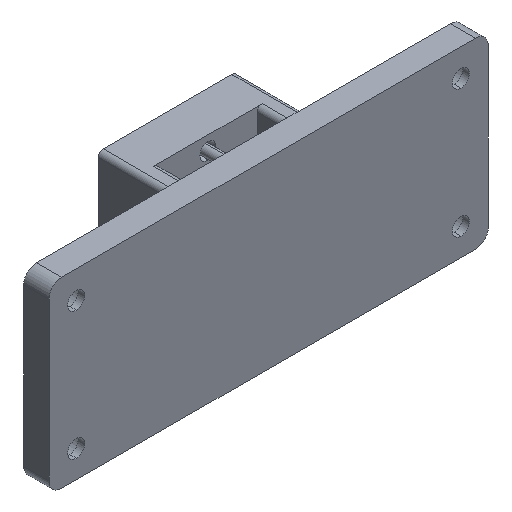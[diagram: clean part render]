
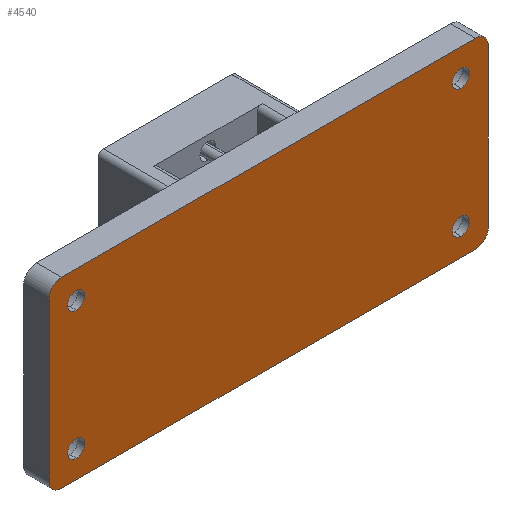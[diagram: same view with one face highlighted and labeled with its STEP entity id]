
A CAD part, isometric view. The second image highlights one B-rep face of the part: STEP entity #4540.
In plain terms, the highlighted planar face has unit normal (0, -1, 0).
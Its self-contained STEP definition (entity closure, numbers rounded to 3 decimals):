
#30 = DIRECTION ( 'NONE',  ( 0., 0., 1. ) ) ;
#47 = LINE ( 'NONE', #7342, #2265 ) ;
#66 = CIRCLE ( 'NONE', #1251, 3.378 ) ;
#81 = ORIENTED_EDGE ( 'NONE', *, *, #951, .T. ) ;
#206 = DIRECTION ( 'NONE',  ( 0., 1., 0. ) ) ;
#210 = ORIENTED_EDGE ( 'NONE', *, *, #5515, .F. ) ;
#387 = AXIS2_PLACEMENT_3D ( 'NONE', #5676, #206, #8116 ) ;
#404 = AXIS2_PLACEMENT_3D ( 'NONE', #4063, #929, #4961 ) ;
#409 = VERTEX_POINT ( 'NONE', #2379 ) ;
#417 = DIRECTION ( 'NONE',  ( 0., 0., 1. ) ) ;
#509 = ORIENTED_EDGE ( 'NONE', *, *, #512, .F. ) ;
#512 = EDGE_CURVE ( 'NONE', #6281, #9403, #47, .T. ) ;
#516 = CARTESIAN_POINT ( 'NONE',  ( 0., 0., 0. ) ) ;
#634 = DIRECTION ( 'NONE',  ( 0., -1., 0. ) ) ;
#698 = CARTESIAN_POINT ( 'NONE',  ( -76.2, 0., -28.778 ) ) ;
#788 = FACE_BOUND ( 'NONE', #6172, .T. ) ;
#808 = DIRECTION ( 'NONE',  ( 0., 0., 1. ) ) ;
#885 = AXIS2_PLACEMENT_3D ( 'NONE', #2590, #9703, #1802 ) ;
#894 = VECTOR ( 'NONE', #3713, 1000. ) ;
#929 = DIRECTION ( 'NONE',  ( 0., 1., 0. ) ) ;
#935 = EDGE_CURVE ( 'NONE', #7901, #6301, #3128, .T. ) ;
#951 = EDGE_CURVE ( 'NONE', #1087, #8222, #5702, .T. ) ;
#1055 = DIRECTION ( 'NONE',  ( 0., 1., 0. ) ) ;
#1087 = VERTEX_POINT ( 'NONE', #8135 ) ;
#1168 = DIRECTION ( 'NONE',  ( 0., -1., 0. ) ) ;
#1181 = VERTEX_POINT ( 'NONE', #5962 ) ;
#1251 = AXIS2_PLACEMENT_3D ( 'NONE', #8128, #4164, #4969 ) ;
#1272 = FACE_BOUND ( 'NONE', #5117, .T. ) ;
#1371 = CIRCLE ( 'NONE', #885, 3.378 ) ;
#1485 = EDGE_LOOP ( 'NONE', ( #1655, #4265, #8552, #1576, #509, #6627, #210, #81 ) ) ;
#1576 = ORIENTED_EDGE ( 'NONE', *, *, #8236, .T. ) ;
#1655 = ORIENTED_EDGE ( 'NONE', *, *, #6399, .F. ) ;
#1680 = EDGE_CURVE ( 'NONE', #6301, #7901, #1371, .T. ) ;
#1793 = VERTEX_POINT ( 'NONE', #8195 ) ;
#1802 = DIRECTION ( 'NONE',  ( 0., 0., 1. ) ) ;
#1901 = FACE_OUTER_BOUND ( 'NONE', #1485, .T. ) ;
#1996 = LINE ( 'NONE', #10042, #894 ) ;
#2167 = ORIENTED_EDGE ( 'NONE', *, *, #1680, .T. ) ;
#2265 = VECTOR ( 'NONE', #8933, 1000. ) ;
#2326 = AXIS2_PLACEMENT_3D ( 'NONE', #9618, #7155, #808 ) ;
#2379 = CARTESIAN_POINT ( 'NONE',  ( -76.2, 0., 22.022 ) ) ;
#2417 = AXIS2_PLACEMENT_3D ( 'NONE', #7721, #2929, #8458 ) ;
#2474 = CARTESIAN_POINT ( 'NONE',  ( 76.2, 0., -25.4 ) ) ;
#2505 = DIRECTION ( 'NONE',  ( 0., 1., 0. ) ) ;
#2556 = CIRCLE ( 'NONE', #404, 3.378 ) ;
#2590 = CARTESIAN_POINT ( 'NONE',  ( -76.2, 0., -25.4 ) ) ;
#2815 = VERTEX_POINT ( 'NONE', #4411 ) ;
#2929 = DIRECTION ( 'NONE',  ( 0., -1., 0. ) ) ;
#2989 = CARTESIAN_POINT ( 'NONE',  ( 76.2, 0., -28.778 ) ) ;
#3128 = CIRCLE ( 'NONE', #2326, 3.378 ) ;
#3148 = FACE_BOUND ( 'NONE', #8055, .T. ) ;
#3236 = DIRECTION ( 'NONE',  ( 0., 0., 1. ) ) ;
#3296 = DIRECTION ( 'NONE',  ( 0., 0., 1. ) ) ;
#3375 = DIRECTION ( 'NONE',  ( 0., 0., 1. ) ) ;
#3415 = CARTESIAN_POINT ( 'NONE',  ( -76.2, 0., -22.022 ) ) ;
#3427 = EDGE_LOOP ( 'NONE', ( #6189, #9812 ) ) ;
#3486 = CARTESIAN_POINT ( 'NONE',  ( -82., 0., -36.2 ) ) ;
#3713 = DIRECTION ( 'NONE',  ( 0., 0., 1. ) ) ;
#3723 = EDGE_CURVE ( 'NONE', #3749, #6103, #5645, .T. ) ;
#3749 = VERTEX_POINT ( 'NONE', #8016 ) ;
#3811 = DIRECTION ( 'NONE',  ( 1., 0., 0. ) ) ;
#3841 = DIRECTION ( 'NONE',  ( 0., 1., 0. ) ) ;
#3995 = FACE_BOUND ( 'NONE', #3427, .T. ) ;
#4063 = CARTESIAN_POINT ( 'NONE',  ( 76.2, 0., -25.4 ) ) ;
#4164 = DIRECTION ( 'NONE',  ( 0., 1., 0. ) ) ;
#4265 = ORIENTED_EDGE ( 'NONE', *, *, #5386, .T. ) ;
#4298 = CARTESIAN_POINT ( 'NONE',  ( -76.2, 0., 28.778 ) ) ;
#4339 = DIRECTION ( 'NONE',  ( 0., 0., 1. ) ) ;
#4362 = LINE ( 'NONE', #5611, #6708 ) ;
#4411 = CARTESIAN_POINT ( 'NONE',  ( 76.2, 0., -22.022 ) ) ;
#4420 = ORIENTED_EDGE ( 'NONE', *, *, #10199, .T. ) ;
#4442 = ORIENTED_EDGE ( 'NONE', *, *, #9102, .T. ) ;
#4540 = ADVANCED_FACE ( 'NONE', ( #3995, #3148, #788, #1272, #1901 ), #9227, .F. ) ;
#4595 = CARTESIAN_POINT ( 'NONE',  ( 82., 0., 36.2 ) ) ;
#4668 = CARTESIAN_POINT ( 'NONE',  ( 82., 0., 31.2 ) ) ;
#4682 = VERTEX_POINT ( 'NONE', #2989 ) ;
#4752 = CARTESIAN_POINT ( 'NONE',  ( -55.375, 0., 36.2 ) ) ;
#4834 = ORIENTED_EDGE ( 'NONE', *, *, #10182, .T. ) ;
#4851 = AXIS2_PLACEMENT_3D ( 'NONE', #7245, #1055, #3375 ) ;
#4870 = EDGE_CURVE ( 'NONE', #6103, #3749, #66, .T. ) ;
#4954 = VERTEX_POINT ( 'NONE', #4298 ) ;
#4961 = DIRECTION ( 'NONE',  ( 0., 0., 1. ) ) ;
#4969 = DIRECTION ( 'NONE',  ( 0., 0., 1. ) ) ;
#5067 = CARTESIAN_POINT ( 'NONE',  ( 82., 0., -31.2 ) ) ;
#5114 = EDGE_CURVE ( 'NONE', #1793, #9198, #4362, .T. ) ;
#5117 = EDGE_LOOP ( 'NONE', ( #4442, #4834 ) ) ;
#5140 = DIRECTION ( 'NONE',  ( 0., 1., 0. ) ) ;
#5199 = AXIS2_PLACEMENT_3D ( 'NONE', #516, #5140, #417 ) ;
#5386 = EDGE_CURVE ( 'NONE', #1181, #9198, #9601, .T. ) ;
#5416 = CIRCLE ( 'NONE', #6548, 5. ) ;
#5427 = CARTESIAN_POINT ( 'NONE',  ( -76.2, 0., 25.4 ) ) ;
#5515 = EDGE_CURVE ( 'NONE', #1087, #5733, #8966, .T. ) ;
#5611 = CARTESIAN_POINT ( 'NONE',  ( -55.375, 0., -36.2 ) ) ;
#5645 = CIRCLE ( 'NONE', #387, 3.378 ) ;
#5660 = DIRECTION ( 'NONE',  ( 0., -1., 0. ) ) ;
#5676 = CARTESIAN_POINT ( 'NONE',  ( 76.2, 0., 25.4 ) ) ;
#5702 = CIRCLE ( 'NONE', #9238, 5. ) ;
#5733 = VERTEX_POINT ( 'NONE', #4595 ) ;
#5850 = CARTESIAN_POINT ( 'NONE',  ( 87., 0., 31.2 ) ) ;
#5962 = CARTESIAN_POINT ( 'NONE',  ( -87., 0., -31.2 ) ) ;
#6103 = VERTEX_POINT ( 'NONE', #6325 ) ;
#6142 = DIRECTION ( 'NONE',  ( 0., 0., 1. ) ) ;
#6172 = EDGE_LOOP ( 'NONE', ( #2167, #7218 ) ) ;
#6189 = ORIENTED_EDGE ( 'NONE', *, *, #3723, .T. ) ;
#6281 = VERTEX_POINT ( 'NONE', #5850 ) ;
#6301 = VERTEX_POINT ( 'NONE', #3415 ) ;
#6325 = CARTESIAN_POINT ( 'NONE',  ( 76.2, 0., 22.022 ) ) ;
#6365 = AXIS2_PLACEMENT_3D ( 'NONE', #2474, #2505, #3296 ) ;
#6399 = EDGE_CURVE ( 'NONE', #1181, #8222, #1996, .T. ) ;
#6548 = AXIS2_PLACEMENT_3D ( 'NONE', #4668, #634, #6142 ) ;
#6627 = ORIENTED_EDGE ( 'NONE', *, *, #7904, .T. ) ;
#6708 = VECTOR ( 'NONE', #7178, 1000. ) ;
#6772 = CIRCLE ( 'NONE', #9365, 5. ) ;
#6827 = VECTOR ( 'NONE', #3811, 1000. ) ;
#7155 = DIRECTION ( 'NONE',  ( 0., 1., 0. ) ) ;
#7178 = DIRECTION ( 'NONE',  ( -1., 0., 0. ) ) ;
#7218 = ORIENTED_EDGE ( 'NONE', *, *, #935, .T. ) ;
#7245 = CARTESIAN_POINT ( 'NONE',  ( -76.2, 0., 25.4 ) ) ;
#7259 = CARTESIAN_POINT ( 'NONE',  ( -87., 0., 31.2 ) ) ;
#7279 = ORIENTED_EDGE ( 'NONE', *, *, #8913, .T. ) ;
#7342 = CARTESIAN_POINT ( 'NONE',  ( 87., 0., 36.2 ) ) ;
#7721 = CARTESIAN_POINT ( 'NONE',  ( -82., 0., -31.2 ) ) ;
#7901 = VERTEX_POINT ( 'NONE', #698 ) ;
#7904 = EDGE_CURVE ( 'NONE', #6281, #5733, #5416, .T. ) ;
#8016 = CARTESIAN_POINT ( 'NONE',  ( 76.2, 0., 28.778 ) ) ;
#8055 = EDGE_LOOP ( 'NONE', ( #4420, #7279 ) ) ;
#8116 = DIRECTION ( 'NONE',  ( 0., 0., 1. ) ) ;
#8128 = CARTESIAN_POINT ( 'NONE',  ( 76.2, 0., 25.4 ) ) ;
#8135 = CARTESIAN_POINT ( 'NONE',  ( -82., 0., 36.2 ) ) ;
#8195 = CARTESIAN_POINT ( 'NONE',  ( 82., 0., -36.2 ) ) ;
#8222 = VERTEX_POINT ( 'NONE', #7259 ) ;
#8236 = EDGE_CURVE ( 'NONE', #1793, #9403, #6772, .T. ) ;
#8379 = CIRCLE ( 'NONE', #6365, 3.378 ) ;
#8458 = DIRECTION ( 'NONE',  ( 0., 0., 1. ) ) ;
#8552 = ORIENTED_EDGE ( 'NONE', *, *, #5114, .F. ) ;
#8632 = CIRCLE ( 'NONE', #10221, 3.378 ) ;
#8913 = EDGE_CURVE ( 'NONE', #409, #4954, #8632, .T. ) ;
#8933 = DIRECTION ( 'NONE',  ( 0., 0., -1. ) ) ;
#8966 = LINE ( 'NONE', #4752, #6827 ) ;
#8996 = CIRCLE ( 'NONE', #4851, 3.378 ) ;
#9102 = EDGE_CURVE ( 'NONE', #2815, #4682, #8379, .T. ) ;
#9198 = VERTEX_POINT ( 'NONE', #3486 ) ;
#9224 = CARTESIAN_POINT ( 'NONE',  ( 87., 0., -31.2 ) ) ;
#9227 = PLANE ( 'NONE',  #5199 ) ;
#9238 = AXIS2_PLACEMENT_3D ( 'NONE', #9649, #5660, #3236 ) ;
#9365 = AXIS2_PLACEMENT_3D ( 'NONE', #5067, #1168, #4339 ) ;
#9403 = VERTEX_POINT ( 'NONE', #9224 ) ;
#9601 = CIRCLE ( 'NONE', #2417, 5. ) ;
#9618 = CARTESIAN_POINT ( 'NONE',  ( -76.2, 0., -25.4 ) ) ;
#9649 = CARTESIAN_POINT ( 'NONE',  ( -82., 0., 31.2 ) ) ;
#9703 = DIRECTION ( 'NONE',  ( 0., 1., 0. ) ) ;
#9812 = ORIENTED_EDGE ( 'NONE', *, *, #4870, .T. ) ;
#10042 = CARTESIAN_POINT ( 'NONE',  ( -87., 0., -36.2 ) ) ;
#10182 = EDGE_CURVE ( 'NONE', #4682, #2815, #2556, .T. ) ;
#10199 = EDGE_CURVE ( 'NONE', #4954, #409, #8996, .T. ) ;
#10221 = AXIS2_PLACEMENT_3D ( 'NONE', #5427, #3841, #30 ) ;
